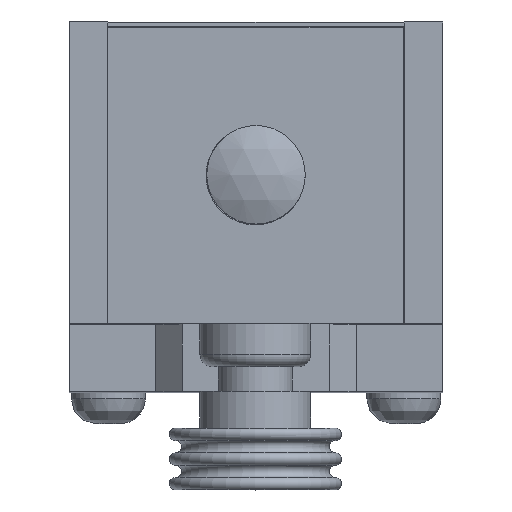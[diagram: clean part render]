
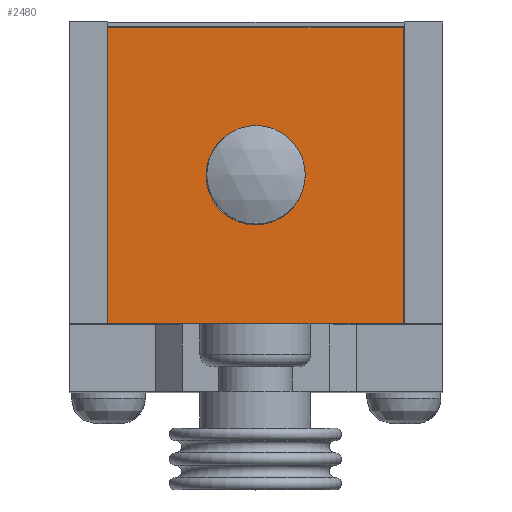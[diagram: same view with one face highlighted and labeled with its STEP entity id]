
A CAD part, top view. The second image highlights one B-rep face of the part: STEP entity #2480.
In plain terms, the highlighted planar face has unit normal (0, 0, 1).
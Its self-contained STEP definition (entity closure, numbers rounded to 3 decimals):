
#2329=CARTESIAN_POINT('',(-12.,-9.45,67.0));
#2330=VERTEX_POINT('',#2329);
#2337=CARTESIAN_POINT('',(-12.,14.55,67.0));
#2338=VERTEX_POINT('',#2337);
#2339=CARTESIAN_POINT('',(-12.,14.55,67.));
#2340=DIRECTION('',(0.0,-1.0,0.0));
#2341=VECTOR('',#2340,24.);
#2342=LINE('',#2339,#2341);
#2343=EDGE_CURVE('',#2338,#2330,#2342,.T.);
#2367=CARTESIAN_POINT('',(12.,-9.45,67.0));
#2368=VERTEX_POINT('',#2367);
#2375=CARTESIAN_POINT('',(-12.,-9.45,67.));
#2376=DIRECTION('',(1.0,0.0,0.0));
#2377=VECTOR('',#2376,24.);
#2378=LINE('',#2375,#2377);
#2379=EDGE_CURVE('',#2330,#2368,#2378,.T.);
#2398=CARTESIAN_POINT('',(12.,14.55,67.0));
#2399=VERTEX_POINT('',#2398);
#2406=CARTESIAN_POINT('',(12.,-9.45,67.));
#2407=DIRECTION('',(0.0,1.0,0.0));
#2408=VECTOR('',#2407,24.0);
#2409=LINE('',#2406,#2408);
#2410=EDGE_CURVE('',#2368,#2399,#2409,.T.);
#2428=CARTESIAN_POINT('',(12.,14.55,67.));
#2429=DIRECTION('',(-1.0,0.0,0.0));
#2430=VECTOR('',#2429,24.);
#2431=LINE('',#2428,#2430);
#2432=EDGE_CURVE('',#2399,#2338,#2431,.T.);
#2443=CARTESIAN_POINT('',(-4.0,2.55,67.));
#2444=VERTEX_POINT('',#2443);
#2445=CARTESIAN_POINT('',(0.0,2.55,67.));
#2446=DIRECTION('',(0.0,0.0,-1.0));
#2447=DIRECTION('',(1.0,0.0,0.0));
#2448=AXIS2_PLACEMENT_3D('',#2445,#2446,#2447);
#2449=CIRCLE('',#2448,4.0);
#2450=EDGE_CURVE('',#2444,#2444,#2449,.T.);
#2466=CARTESIAN_POINT('',(0.0,0.0,67.));
#2467=DIRECTION('',(0.0,0.0,-1.0));
#2468=DIRECTION('',(-1.0,0.0,0.0));
#2469=AXIS2_PLACEMENT_3D('',#2466,#2467,#2468);
#2470=PLANE('',#2469);
#2471=ORIENTED_EDGE('',*,*,#2343,.T.);
#2472=ORIENTED_EDGE('',*,*,#2379,.T.);
#2473=ORIENTED_EDGE('',*,*,#2410,.T.);
#2474=ORIENTED_EDGE('',*,*,#2432,.T.);
#2475=EDGE_LOOP('',(#2471,#2472,#2473,#2474));
#2476=FACE_OUTER_BOUND('',#2475,.T.);
#2477=ORIENTED_EDGE('',*,*,#2450,.T.);
#2478=EDGE_LOOP('',(#2477));
#2479=FACE_BOUND('',#2478,.T.);
#2480=ADVANCED_FACE('',(#2476,#2479),#2470,.F.);
